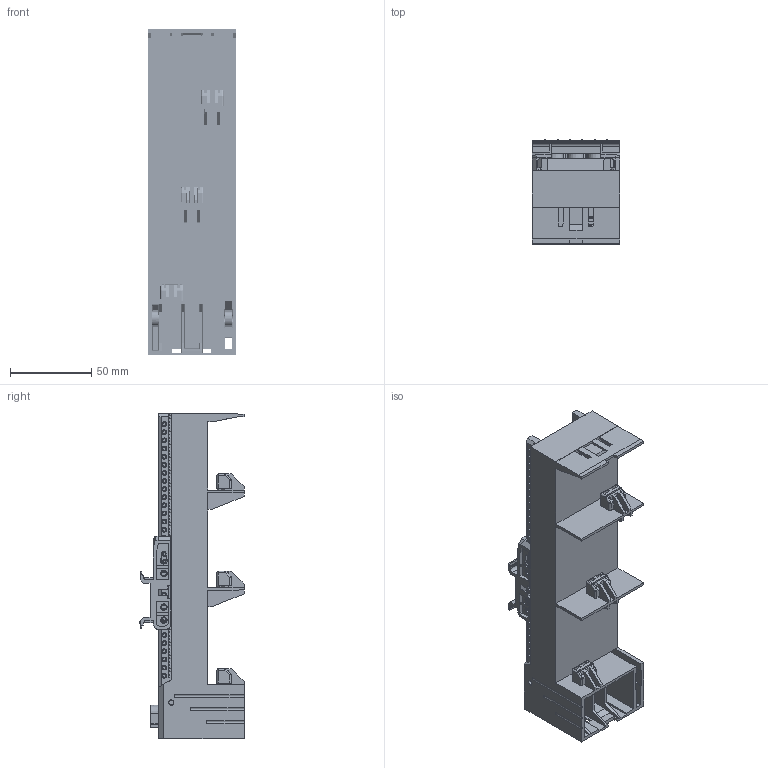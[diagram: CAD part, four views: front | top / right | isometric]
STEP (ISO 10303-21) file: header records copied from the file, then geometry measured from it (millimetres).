
FILE_DESCRIPTION (( 'STEP AP203' ), '1' );
FILE_NAME ('55300.STEP', '2021-08-18T06:54:27', ( '' ), ( '' ), 'SwSTEP 2.0', 'SolidWorks 2017', '' );
FILE_SCHEMA (( 'CONFIG_CONTROL_DESIGN' ));
Products named in the file (2): 55300
Bounding box: 54.05 x 64.3 x 200.4 mm (x, y, z)
Volume: 272156.6 mm3; surface area: 96677.9 mm2
Topology: 10 solids, 17 shells, 2793 faces, 7872 edges, 5217 vertices
Faces by surface type: plane 1916, cylinder 544, cone 171, bspline 159, torus 3
Full cylindrical faces by diameter (mm): 1.988 x130, 2.6 x14, 2.982 x8, 3.479 x4, 4.2 x2, 5 x36, 5.169 x2, 5.964 x7
Entity records: 146551 total; most frequent: CARTESIAN_POINT 80628, ORIENTED_EDGE 14568, DIRECTION 11471, EDGE_CURVE 7284, VERTEX_POINT 4998, LINE 4733, VECTOR 4733, AXIS2_PLACEMENT_3D 3369
